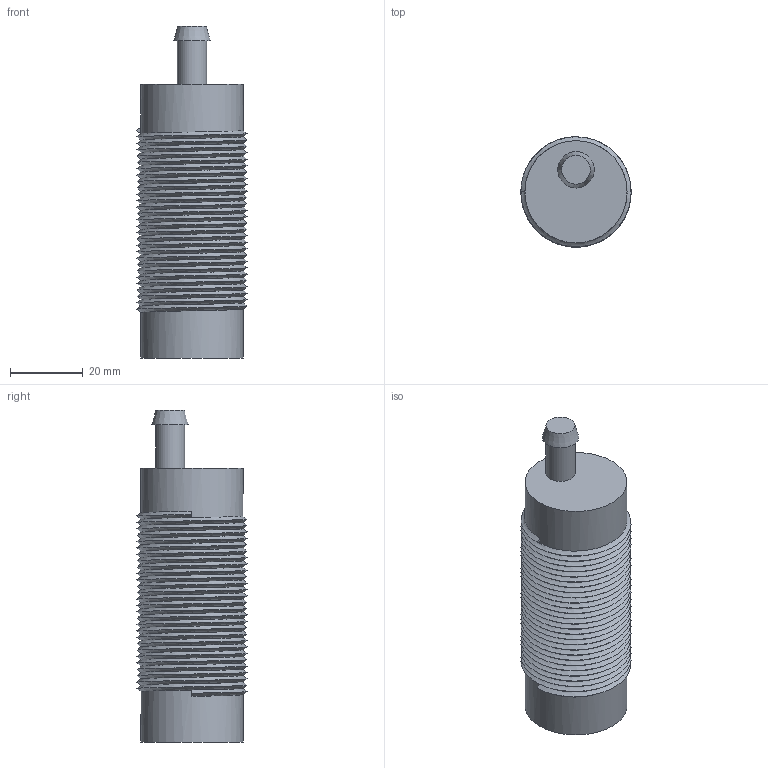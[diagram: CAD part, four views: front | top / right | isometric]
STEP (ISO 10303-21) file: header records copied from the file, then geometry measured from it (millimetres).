
FILE_DESCRIPTION(/* description */ ('Alibre Inc.'),/* implementation_level */ '2;1');
FILE_NAME(/* name */ 'export0',/* time_stamp */ '2013-08-15T10:31:28-06:00',/* author */ (''),/* organization */ (''),/* preprocessor_version */ 'ST-DEVELOPER v14',/* originating_system */ 'Alibre',/* authorisation */ '');
FILE_SCHEMA (('ALIBRE_SCHEMA','CONFIG_CONTROL_DESIGN'));
Length unit declared in the file: centimetre
Products named in the file (1): ID_1
Bounding box: 30.19 x 30.19 x 91 mm (x, y, z)
Volume: 49441.2 mm3; surface area: 11155.1 mm2
Topology: 1 solids, 1 shells, 38 faces, 103 edges, 69 vertices
Faces by surface type: cylinder 29, plane 6, bspline 2, cone 1
Full cylindrical faces by diameter (mm): 8 x1, 28 x28
Entity records: 4832 total; most frequent: CARTESIAN_POINT 3896, DIRECTION 63, CONSTRAINTPAIRUV 43, REFERENCEDEPENDENTUV 42, ENTITYHEADERPROPERTIES 34, INTEGERVALUEPAIR 33, VECTOR 32, ORIENTED_EDGE 30
